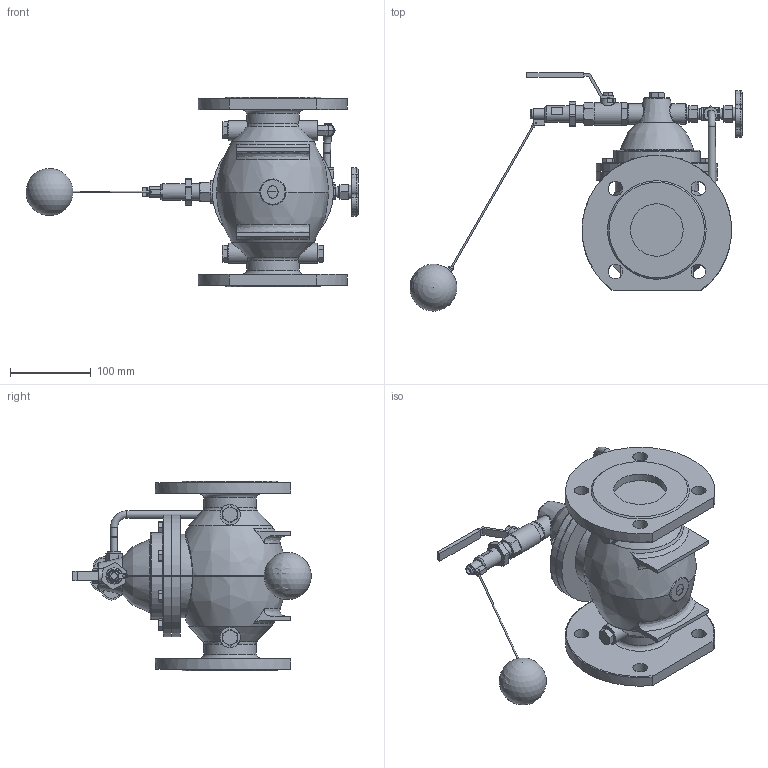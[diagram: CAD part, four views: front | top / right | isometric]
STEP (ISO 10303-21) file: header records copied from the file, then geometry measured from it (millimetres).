
FILE_DESCRIPTION(('STEP AP214'), '1');
FILE_NAME('PVF8-1331RR-F Ðåãóëÿòîð ïèëîòíîãî òèïà ïîïëàâêîâûé DN.ru Äó65 Ðó16', '', ('UNSPECIFIED'), ('UNSPECIFIED'), 'C3D Converter', 'C3D Toolkit', '');
FILE_SCHEMA(('AUTOMOTIVE_DESIGN { 1 0 10303 214 3 1 1}'));
Length unit declared in the file: millimetre
Products named in the file (1): PVF8-1331RR-F
Bounding box: 410.65 x 294.49 x 235 mm (x, y, z)
Volume: 3604388.8 mm3; surface area: 324365.9 mm2
Topology: 1 solids, 1 shells, 789 faces, 1884 edges, 1173 vertices
Faces by surface type: plane 440, cylinder 150, cone 116, torus 34, extrusion 28, bspline 20, sphere 1
Full cylindrical faces by diameter (mm): 2 x3, 4 x1, 6 x1, 7.734 x1, 8 x9, 9 x11, 9.525 x1, 12 x4, 12.573 x3, 13 x8, 14.254 x3, 14.287 x1, 16 x1, 16.016 x1, 16.967 x3, 18 x11, 18.047 x1, 20 x2, 23.884 x1, 25 x6, 27.496 x1, 65 x4, 100 x1, 103 x1, 106.882 x1, 150 x2
Entity records: 38089 total; most frequent: CARTESIAN_POINT 18955, ORIENTED_EDGE 3542, DIRECTION 3478, EDGE_CURVE 1771, AXIS2_PLACEMENT_3D 1338, VERTEX_POINT 1166, EDGE_LOOP 1013, FACE_BOUND 863
